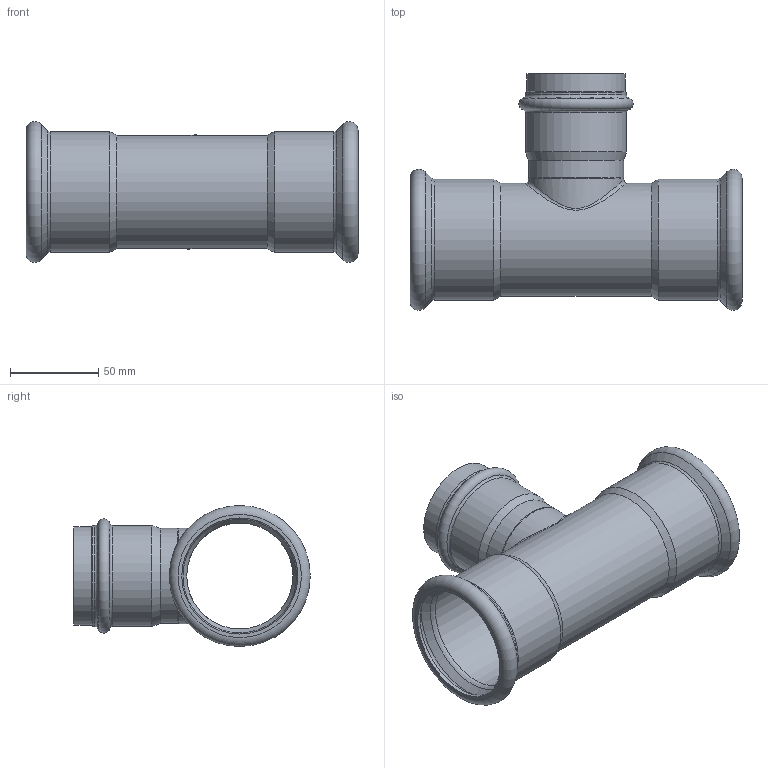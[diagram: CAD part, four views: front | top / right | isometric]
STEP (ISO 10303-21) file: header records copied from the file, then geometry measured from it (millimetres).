
FILE_DESCRIPTION((''),'2;1');
FILE_NAME('G:\Nirosan-Schmiedefeld\Technics\CAD\Bauteile VA\064\69130645464(0).stp','2009-05-08T09:13:46',('herberg'),(''),'Autodesk Inventor 2009','Autodesk Inventor 2009','');
FILE_SCHEMA(('AUTOMOTIVE_DESIGN { 1 0 10303 214 1 1 1 1 }'));
Length unit declared in the file: millimetre
Products named in the file (3): 69130645464(0); LM_69130645464(0); 6924354HM(1)
Assembly tree (2 placements, depth 2):
  69130645464(0)
    LM_69130645464(0)
    6924354HM(1)
Bounding box: 188 x 133.9 x 79.8 mm (x, y, z)
Volume: 96274.5 mm3; surface area: 104678.3 mm2
Topology: 2 solids, 2 shells, 53 faces, 107 edges, 60 vertices
Faces by surface type: cylinder 17, cone 13, bspline 9, plane 7, torus 7
Full cylindrical faces by diameter (mm): 50 x1, 51 x1, 54 x2, 54.35 x2, 55.95 x1, 57.35 x2, 60 x1, 64 x1, 64.4 x2, 65.7 x2, 68.4 x2
Entity records: 3410 total; most frequent: CARTESIAN_POINT 2447, DIRECTION 200, ORIENTED_EDGE 112, EDGE_LOOP 106, AXIS2_PLACEMENT_3D 100, EDGE_CURVE 56, VERTEX_POINT 54, FACE_OUTER_BOUND 53
